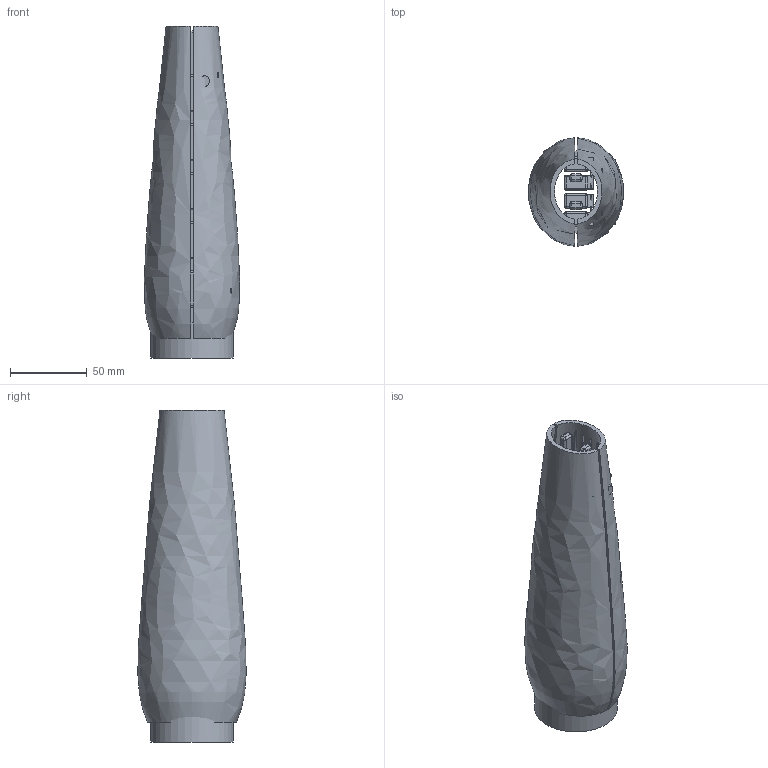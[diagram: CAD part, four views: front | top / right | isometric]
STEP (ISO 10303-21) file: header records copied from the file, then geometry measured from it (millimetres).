
FILE_DESCRIPTION(('FreeCAD Model'),'2;1');
FILE_NAME('Open CASCADE Shape Model','2026-10-05T09:22:52',('Author'),( ''),'Open CASCADE STEP processor 7.8','FreeCAD','Unknown');
FILE_SCHEMA(('AUTOMOTIVE_DESIGN { 1 0 10303 214 1 1 1 1 }'));
Length unit declared in the file: millimetre
Products named in the file (70): Export_forearm; PronationBearing; ForearmAnteriorShell; ForearmPosteriorShell; ForePanelScrew_65_-1; ForePanelScrew_65_1; ForePanelScrew_206_-1; ForePanelScrew_206_1; RadiusUlnaRail-9; RadiusUlnaRail9; HandActuator00; TendonSpool00; TendonGuide00; HandActuator01; TendonSpool01; TendonGuide01; HandActuator02; TendonSpool02; TendonGuide02; HandActuator03; TendonSpool03; TendonGuide03; HandActuator04; TendonSpool04; TendonGuide04; HandActuator05; TendonSpool05; TendonGuide05; HandActuator06; TendonSpool06; TendonGuide06; HandActuator07; TendonSpool07; TendonGuide07; HandActuator08; TendonSpool08; TendonGuide08; HandActuator09; TendonSpool09; TendonGuide09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
Assembly tree (69 placements, depth 2):
  Export_forearm
    PronationBearing
    ForearmAnteriorShell
    ForearmPosteriorShell
    ForePanelScrew_65_-1
    ForePanelScrew_65_1
    ForePanelScrew_206_-1
    ForePanelScrew_206_1
    RadiusUlnaRail-9
    RadiusUlnaRail9
    HandActuator00
    TendonSpool00
    TendonGuide00
    HandActuator01
    TendonSpool01
    TendonGuide01
    HandActuator02
    TendonSpool02
    TendonGuide02
    HandActuator03
    TendonSpool03
    TendonGuide03
    HandActuator04
    TendonSpool04
    TendonGuide04
    HandActuator05
    TendonSpool05
    TendonGuide05
    HandActuator06
    TendonSpool06
    TendonGuide06
    HandActuator07
    TendonSpool07
    TendonGuide07
    HandActuator08
    TendonSpool08
    TendonGuide08
    HandActuator09
    TendonSpool09
    TendonGuide09
    HandActuator10
    TendonSpool10
    TendonGuide10
    HandActuator11
    TendonSpool11
    TendonGuide11
    HandActuator12
    TendonSpool12
    TendonGuide12
    HandActuator13
    TendonSpool13
    TendonGuide13
    HandActuator14
    TendonSpool14
    TendonGuide14
    HandActuator15
    TendonSpool15
    TendonGuide15
    HandActuator16
    TendonSpool16
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Bounding box: 62.18 x 70.81 x 217 mm (x, y, z)
Volume: 219449.4 mm3; surface area: 127398.4 mm2
Topology: 69 solids, 69 shells, 728 faces, 1406 edges, 644 vertices
Faces by surface type: cylinder 314, plane 234, sphere 176, bspline 4
Full cylindrical faces by diameter (mm): 0.9 x20, 1.36 x4, 3.4 x4, 7 x20, 36 x1, 54 x1
Entity records: 19610 total; most frequent: CARTESIAN_POINT 4572, DIRECTION 3430, ORIENTED_EDGE 2460, AXIS2_PLACEMENT_3D 1422, EDGE_CURVE 1230, FACE_BOUND 734, EDGE_LOOP 734, ADVANCED_FACE 728
